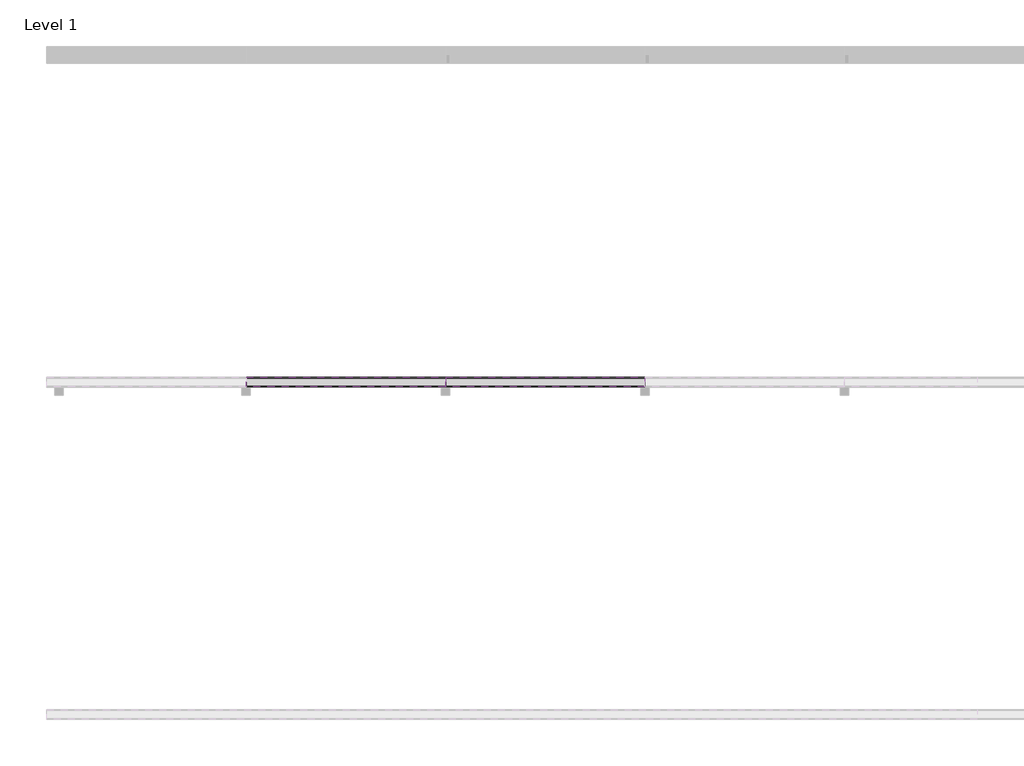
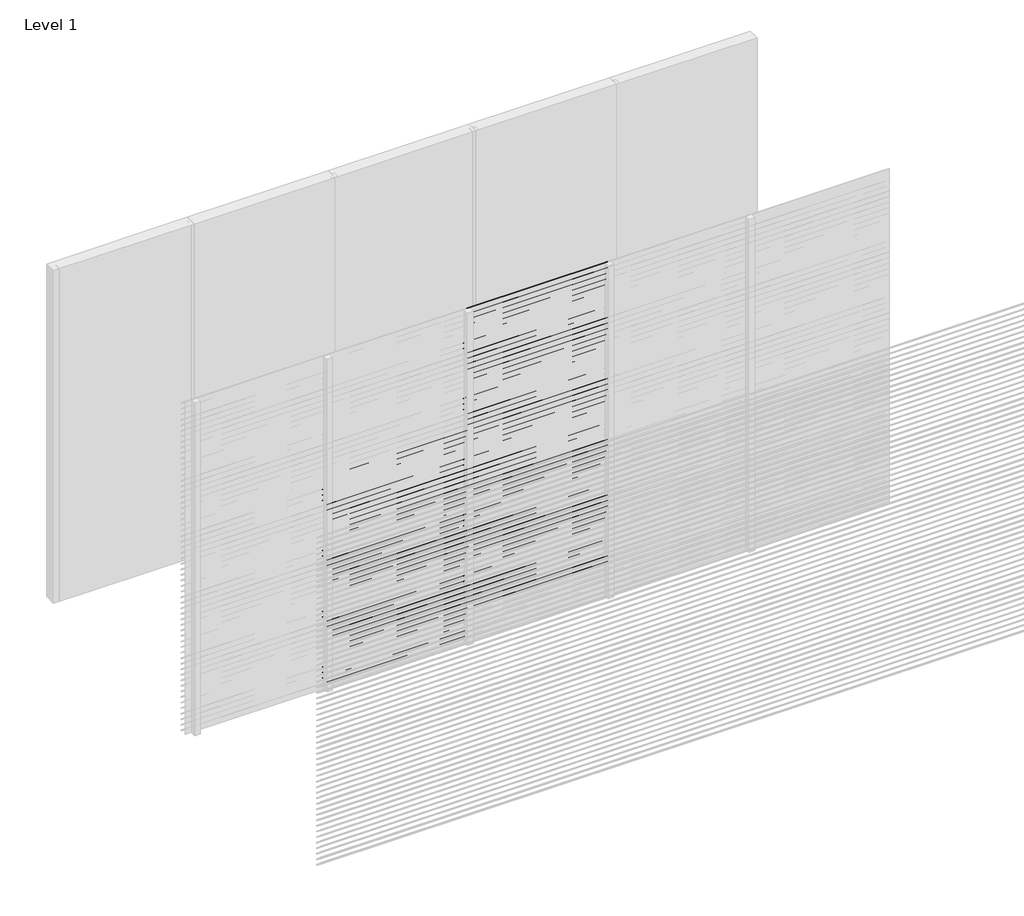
# One storey, part 11 of 16: 93 proxies.
"""IFC4 building model written with IfcOpenShell, lengths in millimetres."""

from ifc_helpers import new_model, si_unit, frame, origin, place, context, project, spatial, polyline, outline, extrude, element, save

model = new_model("IFC4")

# Units and contexts
model_context = context("Model", 3, world=origin())
ifc_project = project(units=[si_unit("LENGTHUNIT", "METRE", prefix="MILLI")], contexts=[model_context])

# Site, building, storey
site = spatial("IfcSite", under=ifc_project)
building = spatial("IfcBuilding", under=site)
storey = spatial("IfcBuildingStorey", under=building, Name="Level 1", Elevation=0.0)

# Proxies
placement = place(None, origin())
element("IfcBuildingElementProxy", 1, Name="Wall Sweeps", at=placement, inside=storey, context=model_context, shape_type="SweptSolid", body=[
    extrude(outline(polyline([(-5995.0, 1900.0), (-5995.0, 1898.0), (-5939.0, 1854.0), (-5939.0, 1846.0), (-5997.0, 1891.5714286), (-5997.0, 1900.0), (-5995.0, 1900.0)])), frame((1200.0, 0.0, 0.0), z_axis=(1.0, 0.0, 0.0), x_axis=(0.0, 1.0, 0.0)), (0.0, 0.0, 1.0), 1200.0),
])
element("IfcBuildingElementProxy", 2, Name="Wall Sweeps", at=placement, inside=storey, context=model_context, shape_type="SweptSolid", body=[
    extrude(outline(polyline([(-5995.0, 1850.0), (-5995.0, 1848.0), (-5939.0, 1804.0), (-5939.0, 1796.0), (-5997.0, 1841.5714286), (-5997.0, 1850.0), (-5995.0, 1850.0)])), frame((1200.0, 0.0, 0.0), z_axis=(1.0, 0.0, 0.0), x_axis=(0.0, 1.0, 0.0)), (0.0, 0.0, 1.0), 1200.0),
])
element("IfcBuildingElementProxy", 3, Name="Wall Sweeps", at=placement, inside=storey, context=model_context, shape_type="SweptSolid", body=[
    extrude(outline(polyline([(-5995.0, 1800.0), (-5995.0, 1798.0), (-5939.0, 1754.0), (-5939.0, 1746.0), (-5997.0, 1791.5714286), (-5997.0, 1800.0), (-5995.0, 1800.0)])), frame((1200.0, 0.0, 0.0), z_axis=(1.0, 0.0, 0.0), x_axis=(0.0, 1.0, 0.0)), (0.0, 0.0, 1.0), 1200.0),
])
element("IfcBuildingElementProxy", 4, Name="Wall Sweeps", at=placement, inside=storey, context=model_context, shape_type="SweptSolid", body=[
    extrude(outline(polyline([(-5995.0, 1750.0), (-5995.0, 1748.0), (-5939.0, 1704.0), (-5939.0, 1696.0), (-5997.0, 1741.5714286), (-5997.0, 1750.0), (-5995.0, 1750.0)])), frame((1200.0, 0.0, 0.0), z_axis=(1.0, 0.0, 0.0), x_axis=(0.0, 1.0, 0.0)), (0.0, 0.0, 1.0), 1200.0),
])
element("IfcBuildingElementProxy", 5, Name="Wall Sweeps", at=placement, inside=storey, context=model_context, shape_type="SweptSolid", body=[
    extrude(outline(polyline([(-5995.0, 1700.0), (-5995.0, 1698.0), (-5939.0, 1654.0), (-5939.0, 1646.0), (-5997.0, 1691.5714286), (-5997.0, 1700.0), (-5995.0, 1700.0)])), frame((1200.0, 0.0, 0.0), z_axis=(1.0, 0.0, 0.0), x_axis=(0.0, 1.0, 0.0)), (0.0, 0.0, 1.0), 1200.0),
])
element("IfcBuildingElementProxy", 6, Name="Wall Sweeps", at=placement, inside=storey, context=model_context, shape_type="SweptSolid", body=[
    extrude(outline(polyline([(-5995.0, 1650.0), (-5995.0, 1648.0), (-5939.0, 1604.0), (-5939.0, 1596.0), (-5997.0, 1641.5714286), (-5997.0, 1650.0), (-5995.0, 1650.0)])), frame((1200.0, 0.0, 0.0), z_axis=(1.0, 0.0, 0.0), x_axis=(0.0, 1.0, 0.0)), (0.0, 0.0, 1.0), 1200.0),
])
element("IfcBuildingElementProxy", 7, Name="Wall Sweeps", at=placement, inside=storey, context=model_context, shape_type="SweptSolid", body=[
    extrude(outline(polyline([(-5995.0, 1600.0), (-5995.0, 1598.0), (-5939.0, 1554.0), (-5939.0, 1546.0), (-5997.0, 1591.5714286), (-5997.0, 1600.0), (-5995.0, 1600.0)])), frame((1200.0, 0.0, 0.0), z_axis=(1.0, 0.0, 0.0), x_axis=(0.0, 1.0, 0.0)), (0.0, 0.0, 1.0), 1200.0),
])
element("IfcBuildingElementProxy", 8, Name="Wall Sweeps", at=placement, inside=storey, context=model_context, shape_type="SweptSolid", body=[
    extrude(outline(polyline([(-5995.0, 1550.0), (-5995.0, 1548.0), (-5939.0, 1504.0), (-5939.0, 1496.0), (-5997.0, 1541.5714286), (-5997.0, 1550.0), (-5995.0, 1550.0)])), frame((1200.0, 0.0, 0.0), z_axis=(1.0, 0.0, 0.0), x_axis=(0.0, 1.0, 0.0)), (0.0, 0.0, 1.0), 1200.0),
])
element("IfcBuildingElementProxy", 9, Name="Wall Sweeps", at=placement, inside=storey, context=model_context, shape_type="SweptSolid", body=[
    extrude(outline(polyline([(-5995.0, 1500.0), (-5995.0, 1498.0), (-5939.0, 1454.0), (-5939.0, 1446.0), (-5997.0, 1491.5714286), (-5997.0, 1500.0), (-5995.0, 1500.0)])), frame((1200.0, 0.0, 0.0), z_axis=(1.0, 0.0, 0.0), x_axis=(0.0, 1.0, 0.0)), (0.0, 0.0, 1.0), 1200.0),
])
element("IfcBuildingElementProxy", 10, Name="Wall Sweeps", at=placement, inside=storey, context=model_context, shape_type="SweptSolid", body=[
    extrude(outline(polyline([(-5995.0, 1450.0), (-5995.0, 1448.0), (-5939.0, 1404.0), (-5939.0, 1396.0), (-5997.0, 1441.5714286), (-5997.0, 1450.0), (-5995.0, 1450.0)])), frame((1200.0, 0.0, 0.0), z_axis=(1.0, 0.0, 0.0), x_axis=(0.0, 1.0, 0.0)), (0.0, 0.0, 1.0), 1200.0),
])
element("IfcBuildingElementProxy", 11, Name="Wall Sweeps", at=placement, inside=storey, context=model_context, shape_type="SweptSolid", body=[
    extrude(outline(polyline([(-5995.0, 1400.0), (-5995.0, 1398.0), (-5939.0, 1354.0), (-5939.0, 1346.0), (-5997.0, 1391.5714286), (-5997.0, 1400.0), (-5995.0, 1400.0)])), frame((1200.0, 0.0, 0.0), z_axis=(1.0, 0.0, 0.0), x_axis=(0.0, 1.0, 0.0)), (0.0, 0.0, 1.0), 1200.0),
])
element("IfcBuildingElementProxy", 12, Name="Wall Sweeps", at=placement, inside=storey, context=model_context, shape_type="SweptSolid", body=[
    extrude(outline(polyline([(-5995.0, 1350.0), (-5995.0, 1348.0), (-5939.0, 1304.0), (-5939.0, 1296.0), (-5997.0, 1341.5714286), (-5997.0, 1350.0), (-5995.0, 1350.0)])), frame((1200.0, 0.0, 0.0), z_axis=(1.0, 0.0, 0.0), x_axis=(0.0, 1.0, 0.0)), (0.0, 0.0, 1.0), 1200.0),
])
element("IfcBuildingElementProxy", 13, Name="Wall Sweeps", at=placement, inside=storey, context=model_context, shape_type="SweptSolid", body=[
    extrude(outline(polyline([(-5995.0, 1300.0), (-5995.0, 1298.0), (-5939.0, 1254.0), (-5939.0, 1246.0), (-5997.0, 1291.5714286), (-5997.0, 1300.0), (-5995.0, 1300.0)])), frame((1200.0, 0.0, 0.0), z_axis=(1.0, 0.0, 0.0), x_axis=(0.0, 1.0, 0.0)), (0.0, 0.0, 1.0), 1200.0),
])
element("IfcBuildingElementProxy", 14, Name="Wall Sweeps", at=placement, inside=storey, context=model_context, shape_type="SweptSolid", body=[
    extrude(outline(polyline([(-5995.0, 1250.0), (-5995.0, 1248.0), (-5939.0, 1204.0), (-5939.0, 1196.0), (-5997.0, 1241.5714286), (-5997.0, 1250.0), (-5995.0, 1250.0)])), frame((1200.0, 0.0, 0.0), z_axis=(1.0, 0.0, 0.0), x_axis=(0.0, 1.0, 0.0)), (0.0, 0.0, 1.0), 1200.0),
])
element("IfcBuildingElementProxy", 15, Name="Wall Sweeps", at=placement, inside=storey, context=model_context, shape_type="SweptSolid", body=[
    extrude(outline(polyline([(-5995.0, 1200.0), (-5995.0, 1198.0), (-5939.0, 1154.0), (-5939.0, 1146.0), (-5997.0, 1191.5714286), (-5997.0, 1200.0), (-5995.0, 1200.0)])), frame((1200.0, 0.0, 0.0), z_axis=(1.0, 0.0, 0.0), x_axis=(0.0, 1.0, 0.0)), (0.0, 0.0, 1.0), 1200.0),
])
element("IfcBuildingElementProxy", 16, Name="Wall Sweeps", at=placement, inside=storey, context=model_context, shape_type="SweptSolid", body=[
    extrude(outline(polyline([(-5995.0, 1150.0), (-5995.0, 1148.0), (-5939.0, 1104.0), (-5939.0, 1096.0), (-5997.0, 1141.5714286), (-5997.0, 1150.0), (-5995.0, 1150.0)])), frame((1200.0, 0.0, 0.0), z_axis=(1.0, 0.0, 0.0), x_axis=(0.0, 1.0, 0.0)), (0.0, 0.0, 1.0), 1200.0),
])
element("IfcBuildingElementProxy", 17, Name="Wall Sweeps", at=placement, inside=storey, context=model_context, shape_type="SweptSolid", body=[
    extrude(outline(polyline([(-5995.0, 1100.0), (-5995.0, 1098.0), (-5939.0, 1054.0), (-5939.0, 1046.0), (-5997.0, 1091.5714286), (-5997.0, 1100.0), (-5995.0, 1100.0)])), frame((1200.0, 0.0, 0.0), z_axis=(1.0, 0.0, 0.0), x_axis=(0.0, 1.0, 0.0)), (0.0, 0.0, 1.0), 1200.0),
])
element("IfcBuildingElementProxy", 18, Name="Wall Sweeps", at=placement, inside=storey, context=model_context, shape_type="SweptSolid", body=[
    extrude(outline(polyline([(-5995.0, 1050.0), (-5995.0, 1048.0), (-5939.0, 1004.0), (-5939.0, 996.0), (-5997.0, 1041.5714286), (-5997.0, 1050.0), (-5995.0, 1050.0)])), frame((1200.0, 0.0, 0.0), z_axis=(1.0, 0.0, 0.0), x_axis=(0.0, 1.0, 0.0)), (0.0, 0.0, 1.0), 1200.0),
])
element("IfcBuildingElementProxy", 19, Name="Wall Sweeps", at=placement, inside=storey, context=model_context, shape_type="SweptSolid", body=[
    extrude(outline(polyline([(-5995.0, 1000.0), (-5995.0, 998.0), (-5939.0, 954.0), (-5939.0, 946.0), (-5997.0, 991.5714286), (-5997.0, 1000.0), (-5995.0, 1000.0)])), frame((1200.0, 0.0, 0.0), z_axis=(1.0, 0.0, 0.0), x_axis=(0.0, 1.0, 0.0)), (0.0, 0.0, 1.0), 1200.0),
])
element("IfcBuildingElementProxy", 20, Name="Wall Sweeps", at=placement, inside=storey, context=model_context, shape_type="SweptSolid", body=[
    extrude(outline(polyline([(-5995.0, 950.0), (-5995.0, 948.0), (-5939.0, 904.0), (-5939.0, 896.0), (-5997.0, 941.5714286), (-5997.0, 950.0), (-5995.0, 950.0)])), frame((1200.0, 0.0, 0.0), z_axis=(1.0, 0.0, 0.0), x_axis=(0.0, 1.0, 0.0)), (0.0, 0.0, 1.0), 1200.0),
])
element("IfcBuildingElementProxy", 21, Name="Wall Sweeps", at=placement, inside=storey, context=model_context, shape_type="SweptSolid", body=[
    extrude(outline(polyline([(-5995.0, 900.0), (-5995.0, 898.0), (-5939.0, 854.0), (-5939.0, 846.0), (-5997.0, 891.5714286), (-5997.0, 900.0), (-5995.0, 900.0)])), frame((1200.0, 0.0, 0.0), z_axis=(1.0, 0.0, 0.0), x_axis=(0.0, 1.0, 0.0)), (0.0, 0.0, 1.0), 1200.0),
])
element("IfcBuildingElementProxy", 22, Name="Wall Sweeps", at=placement, inside=storey, context=model_context, shape_type="SweptSolid", body=[
    extrude(outline(polyline([(-5995.0, 850.0), (-5995.0, 848.0), (-5939.0, 804.0), (-5939.0, 796.0), (-5997.0, 841.5714286), (-5997.0, 850.0), (-5995.0, 850.0)])), frame((1200.0, 0.0, 0.0), z_axis=(1.0, 0.0, 0.0), x_axis=(0.0, 1.0, 0.0)), (0.0, 0.0, 1.0), 1200.0),
])
element("IfcBuildingElementProxy", 23, Name="Wall Sweeps", at=placement, inside=storey, context=model_context, shape_type="SweptSolid", body=[
    extrude(outline(polyline([(-5995.0, 800.0), (-5995.0, 798.0), (-5939.0, 754.0), (-5939.0, 746.0), (-5997.0, 791.5714286), (-5997.0, 800.0), (-5995.0, 800.0)])), frame((1200.0, 0.0, 0.0), z_axis=(1.0, 0.0, 0.0), x_axis=(0.0, 1.0, 0.0)), (0.0, 0.0, 1.0), 1200.0),
])
element("IfcBuildingElementProxy", 24, Name="Wall Sweeps", at=placement, inside=storey, context=model_context, shape_type="SweptSolid", body=[
    extrude(outline(polyline([(-5995.0, 750.0), (-5995.0, 748.0), (-5939.0, 704.0), (-5939.0, 696.0), (-5997.0, 741.5714286), (-5997.0, 750.0), (-5995.0, 750.0)])), frame((1200.0, 0.0, 0.0), z_axis=(1.0, 0.0, 0.0), x_axis=(0.0, 1.0, 0.0)), (0.0, 0.0, 1.0), 1200.0),
])
element("IfcBuildingElementProxy", 25, Name="Wall Sweeps", at=placement, inside=storey, context=model_context, shape_type="SweptSolid", body=[
    extrude(outline(polyline([(-5995.0, 700.0), (-5995.0, 698.0), (-5939.0, 654.0), (-5939.0, 646.0), (-5997.0, 691.5714286), (-5997.0, 700.0), (-5995.0, 700.0)])), frame((1200.0, 0.0, 0.0), z_axis=(1.0, 0.0, 0.0), x_axis=(0.0, 1.0, 0.0)), (0.0, 0.0, 1.0), 1200.0),
])
element("IfcBuildingElementProxy", 26, Name="Wall Sweeps", at=placement, inside=storey, context=model_context, shape_type="SweptSolid", body=[
    extrude(outline(polyline([(-5995.0, 650.0), (-5995.0, 648.0), (-5939.0, 604.0), (-5939.0, 596.0), (-5997.0, 641.5714286), (-5997.0, 650.0), (-5995.0, 650.0)])), frame((1200.0, 0.0, 0.0), z_axis=(1.0, 0.0, 0.0), x_axis=(0.0, 1.0, 0.0)), (0.0, 0.0, 1.0), 1200.0),
])
element("IfcBuildingElementProxy", 27, Name="Wall Sweeps", at=placement, inside=storey, context=model_context, shape_type="SweptSolid", body=[
    extrude(outline(polyline([(-5995.0, 600.0), (-5995.0, 598.0), (-5939.0, 554.0), (-5939.0, 546.0), (-5997.0, 591.5714286), (-5997.0, 600.0), (-5995.0, 600.0)])), frame((1200.0, 0.0, 0.0), z_axis=(1.0, 0.0, 0.0), x_axis=(0.0, 1.0, 0.0)), (0.0, 0.0, 1.0), 1200.0),
])
element("IfcBuildingElementProxy", 28, Name="Wall Sweeps", at=placement, inside=storey, context=model_context, shape_type="SweptSolid", body=[
    extrude(outline(polyline([(-5995.0, 550.0), (-5995.0, 548.0), (-5939.0, 504.0), (-5939.0, 496.0), (-5997.0, 541.5714286), (-5997.0, 550.0), (-5995.0, 550.0)])), frame((1200.0, 0.0, 0.0), z_axis=(1.0, 0.0, 0.0), x_axis=(0.0, 1.0, 0.0)), (0.0, 0.0, 1.0), 1200.0),
])
element("IfcBuildingElementProxy", 29, Name="Wall Sweeps", at=placement, inside=storey, context=model_context, shape_type="SweptSolid", body=[
    extrude(outline(polyline([(-5995.0, 500.0), (-5995.0, 498.0), (-5939.0, 454.0), (-5939.0, 446.0), (-5997.0, 491.5714286), (-5997.0, 500.0), (-5995.0, 500.0)])), frame((1200.0, 0.0, 0.0), z_axis=(1.0, 0.0, 0.0), x_axis=(0.0, 1.0, 0.0)), (0.0, 0.0, 1.0), 1200.0),
])
element("IfcBuildingElementProxy", 30, Name="Wall Sweeps", at=placement, inside=storey, context=model_context, shape_type="SweptSolid", body=[
    extrude(outline(polyline([(-5995.0, 450.0), (-5995.0, 448.0), (-5939.0, 404.0), (-5939.0, 396.0), (-5997.0, 441.5714286), (-5997.0, 450.0), (-5995.0, 450.0)])), frame((1200.0, 0.0, 0.0), z_axis=(1.0, 0.0, 0.0), x_axis=(0.0, 1.0, 0.0)), (0.0, 0.0, 1.0), 1200.0),
])
element("IfcBuildingElementProxy", 31, Name="Wall Sweeps", at=placement, inside=storey, context=model_context, shape_type="SweptSolid", body=[
    extrude(outline(polyline([(-5995.0, 400.0), (-5995.0, 398.0), (-5939.0, 354.0), (-5939.0, 346.0), (-5997.0, 391.5714286), (-5997.0, 400.0), (-5995.0, 400.0)])), frame((1200.0, 0.0, 0.0), z_axis=(1.0, 0.0, 0.0), x_axis=(0.0, 1.0, 0.0)), (0.0, 0.0, 1.0), 1200.0),
])
element("IfcBuildingElementProxy", 32, Name="Wall Sweeps", at=placement, inside=storey, context=model_context, shape_type="SweptSolid", body=[
    extrude(outline(polyline([(-5995.0, 350.0), (-5995.0, 348.0), (-5939.0, 304.0), (-5939.0, 296.0), (-5997.0, 341.5714286), (-5997.0, 350.0), (-5995.0, 350.0)])), frame((1200.0, 0.0, 0.0), z_axis=(1.0, 0.0, 0.0), x_axis=(0.0, 1.0, 0.0)), (0.0, 0.0, 1.0), 1200.0),
])
element("IfcBuildingElementProxy", 33, Name="Wall Sweeps", at=placement, inside=storey, context=model_context, shape_type="SweptSolid", body=[
    extrude(outline(polyline([(-5995.0, 300.0), (-5995.0, 298.0), (-5939.0, 254.0), (-5939.0, 246.0), (-5997.0, 291.5714286), (-5997.0, 300.0), (-5995.0, 300.0)])), frame((1200.0, 0.0, 0.0), z_axis=(1.0, 0.0, 0.0), x_axis=(0.0, 1.0, 0.0)), (0.0, 0.0, 1.0), 1200.0),
])
element("IfcBuildingElementProxy", 34, Name="Wall Sweeps", at=placement, inside=storey, context=model_context, shape_type="SweptSolid", body=[
    extrude(outline(polyline([(-5995.0, 250.0), (-5995.0, 248.0), (-5939.0, 204.0), (-5939.0, 196.0), (-5997.0, 241.5714286), (-5997.0, 250.0), (-5995.0, 250.0)])), frame((1200.0, 0.0, 0.0), z_axis=(1.0, 0.0, 0.0), x_axis=(0.0, 1.0, 0.0)), (0.0, 0.0, 1.0), 1200.0),
])
element("IfcBuildingElementProxy", 35, Name="Wall Sweeps", at=placement, inside=storey, context=model_context, shape_type="SweptSolid", body=[
    extrude(outline(polyline([(-5995.0, 200.0), (-5995.0, 198.0), (-5939.0, 154.0), (-5939.0, 146.0), (-5997.0, 191.5714286), (-5997.0, 200.0), (-5995.0, 200.0)])), frame((1200.0, 0.0, 0.0), z_axis=(1.0, 0.0, 0.0), x_axis=(0.0, 1.0, 0.0)), (0.0, 0.0, 1.0), 1200.0),
])
element("IfcBuildingElementProxy", 36, Name="Wall Sweeps", at=placement, inside=storey, context=model_context, shape_type="SweptSolid", body=[
    extrude(outline(polyline([(-5995.0, 150.0), (-5995.0, 148.0), (-5939.0, 104.0), (-5939.0, 96.0), (-5997.0, 141.5714286), (-5997.0, 150.0), (-5995.0, 150.0)])), frame((1200.0, 0.0, 0.0), z_axis=(1.0, 0.0, 0.0), x_axis=(0.0, 1.0, 0.0)), (0.0, 0.0, 1.0), 1200.0),
])
element("IfcBuildingElementProxy", 37, Name="Wall Sweeps", at=placement, inside=storey, context=model_context, shape_type="SweptSolid", body=[
    extrude(outline(polyline([(-5995.0, 100.0), (-5995.0, 98.0), (-5939.0, 54.0), (-5939.0, 46.0), (-5997.0, 91.5714286), (-5997.0, 100.0), (-5995.0, 100.0)])), frame((1200.0, 0.0, 0.0), z_axis=(1.0, 0.0, 0.0), x_axis=(0.0, 1.0, 0.0)), (0.0, 0.0, 1.0), 1200.0),
])
element("IfcBuildingElementProxy", 38, Name="Wall Sweeps", at=placement, inside=storey, context=model_context, shape_type="SweptSolid", body=[
    extrude(outline(polyline([(-5995.0, 50.0), (-5995.0, 48.0), (-5939.0, 4.0), (-5939.0, -4.0), (-5997.0, 41.5714286), (-5997.0, 50.0), (-5995.0, 50.0)])), frame((1200.0, 0.0, 0.0), z_axis=(1.0, 0.0, 0.0), x_axis=(0.0, 1.0, 0.0)), (0.0, 0.0, 1.0), 1200.0),
])
element("IfcBuildingElementProxy", 39, Name="Wall Sweeps", at=placement, inside=storey, context=model_context, shape_type="SweptSolid", body=[
    extrude(outline(polyline([(-5995.0, 3000.0), (-5995.0, 2998.0), (-5939.0, 2954.0), (-5939.0, 2946.0), (-5997.0, 2991.5714286), (-5997.0, 3000.0), (-5995.0, 3000.0)])), frame((2400.0, 0.0, 0.0), z_axis=(1.0, 0.0, 0.0), x_axis=(0.0, 1.0, 0.0)), (0.0, 0.0, 1.0), 1200.0),
])
element("IfcBuildingElementProxy", 40, Name="Wall Sweeps", at=placement, inside=storey, context=model_context, shape_type="SweptSolid", body=[
    extrude(outline(polyline([(-5995.0, 2950.0), (-5995.0, 2948.0), (-5939.0, 2904.0), (-5939.0, 2896.0), (-5997.0, 2941.5714286), (-5997.0, 2950.0), (-5995.0, 2950.0)])), frame((2400.0, 0.0, 0.0), z_axis=(1.0, 0.0, 0.0), x_axis=(0.0, 1.0, 0.0)), (0.0, 0.0, 1.0), 1200.0),
])
element("IfcBuildingElementProxy", 41, Name="Wall Sweeps", at=placement, inside=storey, context=model_context, shape_type="SweptSolid", body=[
    extrude(outline(polyline([(-5995.0, 2900.0), (-5995.0, 2898.0), (-5939.0, 2854.0), (-5939.0, 2846.0), (-5997.0, 2891.5714286), (-5997.0, 2900.0), (-5995.0, 2900.0)])), frame((2400.0, 0.0, 0.0), z_axis=(1.0, 0.0, 0.0), x_axis=(0.0, 1.0, 0.0)), (0.0, 0.0, 1.0), 1200.0),
])
element("IfcBuildingElementProxy", 42, Name="Wall Sweeps", at=placement, inside=storey, context=model_context, shape_type="SweptSolid", body=[
    extrude(outline(polyline([(-5995.0, 2850.0), (-5995.0, 2848.0), (-5939.0, 2804.0), (-5939.0, 2796.0), (-5997.0, 2841.5714286), (-5997.0, 2850.0), (-5995.0, 2850.0)])), frame((2400.0, 0.0, 0.0), z_axis=(1.0, 0.0, 0.0), x_axis=(0.0, 1.0, 0.0)), (0.0, 0.0, 1.0), 1200.0),
])
element("IfcBuildingElementProxy", 43, Name="Wall Sweeps", at=placement, inside=storey, context=model_context, shape_type="SweptSolid", body=[
    extrude(outline(polyline([(-5995.0, 2800.0), (-5995.0, 2798.0), (-5939.0, 2754.0), (-5939.0, 2746.0), (-5997.0, 2791.5714286), (-5997.0, 2800.0), (-5995.0, 2800.0)])), frame((2400.0, 0.0, 0.0), z_axis=(1.0, 0.0, 0.0), x_axis=(0.0, 1.0, 0.0)), (0.0, 0.0, 1.0), 1200.0),
])
element("IfcBuildingElementProxy", 44, Name="Wall Sweeps", at=placement, inside=storey, context=model_context, shape_type="SweptSolid", body=[
    extrude(outline(polyline([(-5995.0, 2750.0), (-5995.0, 2748.0), (-5939.0, 2704.0), (-5939.0, 2696.0), (-5997.0, 2741.5714286), (-5997.0, 2750.0), (-5995.0, 2750.0)])), frame((2400.0, 0.0, 0.0), z_axis=(1.0, 0.0, 0.0), x_axis=(0.0, 1.0, 0.0)), (0.0, 0.0, 1.0), 1200.0),
])
element("IfcBuildingElementProxy", 45, Name="Wall Sweeps", at=placement, inside=storey, context=model_context, shape_type="SweptSolid", body=[
    extrude(outline(polyline([(-5995.0, 2700.0), (-5995.0, 2698.0), (-5939.0, 2654.0), (-5939.0, 2646.0), (-5997.0, 2691.5714286), (-5997.0, 2700.0), (-5995.0, 2700.0)])), frame((2400.0, 0.0, 0.0), z_axis=(1.0, 0.0, 0.0), x_axis=(0.0, 1.0, 0.0)), (0.0, 0.0, 1.0), 1200.0),
])
element("IfcBuildingElementProxy", 46, Name="Wall Sweeps", at=placement, inside=storey, context=model_context, shape_type="SweptSolid", body=[
    extrude(outline(polyline([(-5995.0, 2650.0), (-5995.0, 2648.0), (-5939.0, 2604.0), (-5939.0, 2596.0), (-5997.0, 2641.5714286), (-5997.0, 2650.0), (-5995.0, 2650.0)])), frame((2400.0, 0.0, 0.0), z_axis=(1.0, 0.0, 0.0), x_axis=(0.0, 1.0, 0.0)), (0.0, 0.0, 1.0), 1200.0),
])
element("IfcBuildingElementProxy", 47, Name="Wall Sweeps", at=placement, inside=storey, context=model_context, shape_type="SweptSolid", body=[
    extrude(outline(polyline([(-5995.0, 2600.0), (-5995.0, 2598.0), (-5939.0, 2554.0), (-5939.0, 2546.0), (-5997.0, 2591.5714286), (-5997.0, 2600.0), (-5995.0, 2600.0)])), frame((2400.0, 0.0, 0.0), z_axis=(1.0, 0.0, 0.0), x_axis=(0.0, 1.0, 0.0)), (0.0, 0.0, 1.0), 1200.0),
])
element("IfcBuildingElementProxy", 48, Name="Wall Sweeps", at=placement, inside=storey, context=model_context, shape_type="SweptSolid", body=[
    extrude(outline(polyline([(-5995.0, 2550.0), (-5995.0, 2548.0), (-5939.0, 2504.0), (-5939.0, 2496.0), (-5997.0, 2541.5714286), (-5997.0, 2550.0), (-5995.0, 2550.0)])), frame((2400.0, 0.0, 0.0), z_axis=(1.0, 0.0, 0.0), x_axis=(0.0, 1.0, 0.0)), (0.0, 0.0, 1.0), 1200.0),
])
element("IfcBuildingElementProxy", 49, Name="Wall Sweeps", at=placement, inside=storey, context=model_context, shape_type="SweptSolid", body=[
    extrude(outline(polyline([(-5995.0, 2500.0), (-5995.0, 2498.0), (-5939.0, 2454.0), (-5939.0, 2446.0), (-5997.0, 2491.5714286), (-5997.0, 2500.0), (-5995.0, 2500.0)])), frame((2400.0, 0.0, 0.0), z_axis=(1.0, 0.0, 0.0), x_axis=(0.0, 1.0, 0.0)), (0.0, 0.0, 1.0), 1200.0),
])
element("IfcBuildingElementProxy", 50, Name="Wall Sweeps", at=placement, inside=storey, context=model_context, shape_type="SweptSolid", body=[
    extrude(outline(polyline([(-5995.0, 2450.0), (-5995.0, 2448.0), (-5939.0, 2404.0), (-5939.0, 2396.0), (-5997.0, 2441.5714286), (-5997.0, 2450.0), (-5995.0, 2450.0)])), frame((2400.0, 0.0, 0.0), z_axis=(1.0, 0.0, 0.0), x_axis=(0.0, 1.0, 0.0)), (0.0, 0.0, 1.0), 1200.0),
])
element("IfcBuildingElementProxy", 51, Name="Wall Sweeps", at=placement, inside=storey, context=model_context, shape_type="SweptSolid", body=[
    extrude(outline(polyline([(-5995.0, 2400.0), (-5995.0, 2398.0), (-5939.0, 2354.0), (-5939.0, 2346.0), (-5997.0, 2391.5714286), (-5997.0, 2400.0), (-5995.0, 2400.0)])), frame((2400.0, 0.0, 0.0), z_axis=(1.0, 0.0, 0.0), x_axis=(0.0, 1.0, 0.0)), (0.0, 0.0, 1.0), 1200.0),
])
element("IfcBuildingElementProxy", 52, Name="Wall Sweeps", at=placement, inside=storey, context=model_context, shape_type="SweptSolid", body=[
    extrude(outline(polyline([(-5995.0, 2350.0), (-5995.0, 2348.0), (-5939.0, 2304.0), (-5939.0, 2296.0), (-5997.0, 2341.5714286), (-5997.0, 2350.0), (-5995.0, 2350.0)])), frame((2400.0, 0.0, 0.0), z_axis=(1.0, 0.0, 0.0), x_axis=(0.0, 1.0, 0.0)), (0.0, 0.0, 1.0), 1200.0),
])
element("IfcBuildingElementProxy", 53, Name="Wall Sweeps", at=placement, inside=storey, context=model_context, shape_type="SweptSolid", body=[
    extrude(outline(polyline([(-5995.0, 2300.0), (-5995.0, 2298.0), (-5939.0, 2254.0), (-5939.0, 2246.0), (-5997.0, 2291.5714286), (-5997.0, 2300.0), (-5995.0, 2300.0)])), frame((2400.0, 0.0, 0.0), z_axis=(1.0, 0.0, 0.0), x_axis=(0.0, 1.0, 0.0)), (0.0, 0.0, 1.0), 1200.0),
])
element("IfcBuildingElementProxy", 54, Name="Wall Sweeps", at=placement, inside=storey, context=model_context, shape_type="SweptSolid", body=[
    extrude(outline(polyline([(-5995.0, 2250.0), (-5995.0, 2248.0), (-5939.0, 2204.0), (-5939.0, 2196.0), (-5997.0, 2241.5714286), (-5997.0, 2250.0), (-5995.0, 2250.0)])), frame((2400.0, 0.0, 0.0), z_axis=(1.0, 0.0, 0.0), x_axis=(0.0, 1.0, 0.0)), (0.0, 0.0, 1.0), 1200.0),
])
element("IfcBuildingElementProxy", 55, Name="Wall Sweeps", at=placement, inside=storey, context=model_context, shape_type="SweptSolid", body=[
    extrude(outline(polyline([(-5995.0, 2200.0), (-5995.0, 2198.0), (-5939.0, 2154.0), (-5939.0, 2146.0), (-5997.0, 2191.5714286), (-5997.0, 2200.0), (-5995.0, 2200.0)])), frame((2400.0, 0.0, 0.0), z_axis=(1.0, 0.0, 0.0), x_axis=(0.0, 1.0, 0.0)), (0.0, 0.0, 1.0), 1200.0),
])
element("IfcBuildingElementProxy", 56, Name="Wall Sweeps", at=placement, inside=storey, context=model_context, shape_type="SweptSolid", body=[
    extrude(outline(polyline([(-5995.0, 2150.0), (-5995.0, 2148.0), (-5939.0, 2104.0), (-5939.0, 2096.0), (-5997.0, 2141.5714286), (-5997.0, 2150.0), (-5995.0, 2150.0)])), frame((2400.0, 0.0, 0.0), z_axis=(1.0, 0.0, 0.0), x_axis=(0.0, 1.0, 0.0)), (0.0, 0.0, 1.0), 1200.0),
])
element("IfcBuildingElementProxy", 57, Name="Wall Sweeps", at=placement, inside=storey, context=model_context, shape_type="SweptSolid", body=[
    extrude(outline(polyline([(-5995.0, 2100.0), (-5995.0, 2098.0), (-5939.0, 2054.0), (-5939.0, 2046.0), (-5997.0, 2091.5714286), (-5997.0, 2100.0), (-5995.0, 2100.0)])), frame((2400.0, 0.0, 0.0), z_axis=(1.0, 0.0, 0.0), x_axis=(0.0, 1.0, 0.0)), (0.0, 0.0, 1.0), 1200.0),
])
element("IfcBuildingElementProxy", 58, Name="Wall Sweeps", at=placement, inside=storey, context=model_context, shape_type="SweptSolid", body=[
    extrude(outline(polyline([(-5995.0, 2050.0), (-5995.0, 2048.0), (-5939.0, 2004.0), (-5939.0, 1996.0), (-5997.0, 2041.5714286), (-5997.0, 2050.0), (-5995.0, 2050.0)])), frame((2400.0, 0.0, 0.0), z_axis=(1.0, 0.0, 0.0), x_axis=(0.0, 1.0, 0.0)), (0.0, 0.0, 1.0), 1200.0),
])
element("IfcBuildingElementProxy", 59, Name="Wall Sweeps", at=placement, inside=storey, context=model_context, shape_type="SweptSolid", body=[
    extrude(outline(polyline([(-5995.0, 2000.0), (-5995.0, 1998.0), (-5939.0, 1954.0), (-5939.0, 1946.0), (-5997.0, 1991.5714286), (-5997.0, 2000.0), (-5995.0, 2000.0)])), frame((2400.0, 0.0, 0.0), z_axis=(1.0, 0.0, 0.0), x_axis=(0.0, 1.0, 0.0)), (0.0, 0.0, 1.0), 1200.0),
])
element("IfcBuildingElementProxy", 60, Name="Wall Sweeps", at=placement, inside=storey, context=model_context, shape_type="SweptSolid", body=[
    extrude(outline(polyline([(-5995.0, 1950.0), (-5995.0, 1948.0), (-5939.0, 1904.0), (-5939.0, 1896.0), (-5997.0, 1941.5714286), (-5997.0, 1950.0), (-5995.0, 1950.0)])), frame((2400.0, 0.0, 0.0), z_axis=(1.0, 0.0, 0.0), x_axis=(0.0, 1.0, 0.0)), (0.0, 0.0, 1.0), 1200.0),
])
element("IfcBuildingElementProxy", 61, Name="Wall Sweeps", at=placement, inside=storey, context=model_context, shape_type="SweptSolid", body=[
    extrude(outline(polyline([(-5995.0, 1900.0), (-5995.0, 1898.0), (-5939.0, 1854.0), (-5939.0, 1846.0), (-5997.0, 1891.5714286), (-5997.0, 1900.0), (-5995.0, 1900.0)])), frame((2400.0, 0.0, 0.0), z_axis=(1.0, 0.0, 0.0), x_axis=(0.0, 1.0, 0.0)), (0.0, 0.0, 1.0), 1200.0),
])
element("IfcBuildingElementProxy", 62, Name="Wall Sweeps", at=placement, inside=storey, context=model_context, shape_type="SweptSolid", body=[
    extrude(outline(polyline([(-5995.0, 1850.0), (-5995.0, 1848.0), (-5939.0, 1804.0), (-5939.0, 1796.0), (-5997.0, 1841.5714286), (-5997.0, 1850.0), (-5995.0, 1850.0)])), frame((2400.0, 0.0, 0.0), z_axis=(1.0, 0.0, 0.0), x_axis=(0.0, 1.0, 0.0)), (0.0, 0.0, 1.0), 1200.0),
])
element("IfcBuildingElementProxy", 63, Name="Wall Sweeps", at=placement, inside=storey, context=model_context, shape_type="SweptSolid", body=[
    extrude(outline(polyline([(-5995.0, 1800.0), (-5995.0, 1798.0), (-5939.0, 1754.0), (-5939.0, 1746.0), (-5997.0, 1791.5714286), (-5997.0, 1800.0), (-5995.0, 1800.0)])), frame((2400.0, 0.0, 0.0), z_axis=(1.0, 0.0, 0.0), x_axis=(0.0, 1.0, 0.0)), (0.0, 0.0, 1.0), 1200.0),
])
element("IfcBuildingElementProxy", 64, Name="Wall Sweeps", at=placement, inside=storey, context=model_context, shape_type="SweptSolid", body=[
    extrude(outline(polyline([(-5995.0, 1750.0), (-5995.0, 1748.0), (-5939.0, 1704.0), (-5939.0, 1696.0), (-5997.0, 1741.5714286), (-5997.0, 1750.0), (-5995.0, 1750.0)])), frame((2400.0, 0.0, 0.0), z_axis=(1.0, 0.0, 0.0), x_axis=(0.0, 1.0, 0.0)), (0.0, 0.0, 1.0), 1200.0),
])
element("IfcBuildingElementProxy", 65, Name="Wall Sweeps", at=placement, inside=storey, context=model_context, shape_type="SweptSolid", body=[
    extrude(outline(polyline([(-5995.0, 1700.0), (-5995.0, 1698.0), (-5939.0, 1654.0), (-5939.0, 1646.0), (-5997.0, 1691.5714286), (-5997.0, 1700.0), (-5995.0, 1700.0)])), frame((2400.0, 0.0, 0.0), z_axis=(1.0, 0.0, 0.0), x_axis=(0.0, 1.0, 0.0)), (0.0, 0.0, 1.0), 1200.0),
])
element("IfcBuildingElementProxy", 66, Name="Wall Sweeps", at=placement, inside=storey, context=model_context, shape_type="SweptSolid", body=[
    extrude(outline(polyline([(-5995.0, 1650.0), (-5995.0, 1648.0), (-5939.0, 1604.0), (-5939.0, 1596.0), (-5997.0, 1641.5714286), (-5997.0, 1650.0), (-5995.0, 1650.0)])), frame((2400.0, 0.0, 0.0), z_axis=(1.0, 0.0, 0.0), x_axis=(0.0, 1.0, 0.0)), (0.0, 0.0, 1.0), 1200.0),
])
element("IfcBuildingElementProxy", 67, Name="Wall Sweeps", at=placement, inside=storey, context=model_context, shape_type="SweptSolid", body=[
    extrude(outline(polyline([(-5995.0, 1600.0), (-5995.0, 1598.0), (-5939.0, 1554.0), (-5939.0, 1546.0), (-5997.0, 1591.5714286), (-5997.0, 1600.0), (-5995.0, 1600.0)])), frame((2400.0, 0.0, 0.0), z_axis=(1.0, 0.0, 0.0), x_axis=(0.0, 1.0, 0.0)), (0.0, 0.0, 1.0), 1200.0),
])
element("IfcBuildingElementProxy", 68, Name="Wall Sweeps", at=placement, inside=storey, context=model_context, shape_type="SweptSolid", body=[
    extrude(outline(polyline([(-5995.0, 1550.0), (-5995.0, 1548.0), (-5939.0, 1504.0), (-5939.0, 1496.0), (-5997.0, 1541.5714286), (-5997.0, 1550.0), (-5995.0, 1550.0)])), frame((2400.0, 0.0, 0.0), z_axis=(1.0, 0.0, 0.0), x_axis=(0.0, 1.0, 0.0)), (0.0, 0.0, 1.0), 1200.0),
])
element("IfcBuildingElementProxy", 69, Name="Wall Sweeps", at=placement, inside=storey, context=model_context, shape_type="SweptSolid", body=[
    extrude(outline(polyline([(-5995.0, 1500.0), (-5995.0, 1498.0), (-5939.0, 1454.0), (-5939.0, 1446.0), (-5997.0, 1491.5714286), (-5997.0, 1500.0), (-5995.0, 1500.0)])), frame((2400.0, 0.0, 0.0), z_axis=(1.0, 0.0, 0.0), x_axis=(0.0, 1.0, 0.0)), (0.0, 0.0, 1.0), 1200.0),
])
element("IfcBuildingElementProxy", 70, Name="Wall Sweeps", at=placement, inside=storey, context=model_context, shape_type="SweptSolid", body=[
    extrude(outline(polyline([(-5995.0, 1450.0), (-5995.0, 1448.0), (-5939.0, 1404.0), (-5939.0, 1396.0), (-5997.0, 1441.5714286), (-5997.0, 1450.0), (-5995.0, 1450.0)])), frame((2400.0, 0.0, 0.0), z_axis=(1.0, 0.0, 0.0), x_axis=(0.0, 1.0, 0.0)), (0.0, 0.0, 1.0), 1200.0),
])
element("IfcBuildingElementProxy", 71, Name="Wall Sweeps", at=placement, inside=storey, context=model_context, shape_type="SweptSolid", body=[
    extrude(outline(polyline([(-5995.0, 1400.0), (-5995.0, 1398.0), (-5939.0, 1354.0), (-5939.0, 1346.0), (-5997.0, 1391.5714286), (-5997.0, 1400.0), (-5995.0, 1400.0)])), frame((2400.0, 0.0, 0.0), z_axis=(1.0, 0.0, 0.0), x_axis=(0.0, 1.0, 0.0)), (0.0, 0.0, 1.0), 1200.0),
])
element("IfcBuildingElementProxy", 72, Name="Wall Sweeps", at=placement, inside=storey, context=model_context, shape_type="SweptSolid", body=[
    extrude(outline(polyline([(-5995.0, 1350.0), (-5995.0, 1348.0), (-5939.0, 1304.0), (-5939.0, 1296.0), (-5997.0, 1341.5714286), (-5997.0, 1350.0), (-5995.0, 1350.0)])), frame((2400.0, 0.0, 0.0), z_axis=(1.0, 0.0, 0.0), x_axis=(0.0, 1.0, 0.0)), (0.0, 0.0, 1.0), 1200.0),
])
element("IfcBuildingElementProxy", 73, Name="Wall Sweeps", at=placement, inside=storey, context=model_context, shape_type="SweptSolid", body=[
    extrude(outline(polyline([(-5995.0, 1300.0), (-5995.0, 1298.0), (-5939.0, 1254.0), (-5939.0, 1246.0), (-5997.0, 1291.5714286), (-5997.0, 1300.0), (-5995.0, 1300.0)])), frame((2400.0, 0.0, 0.0), z_axis=(1.0, 0.0, 0.0), x_axis=(0.0, 1.0, 0.0)), (0.0, 0.0, 1.0), 1200.0),
])
element("IfcBuildingElementProxy", 74, Name="Wall Sweeps", at=placement, inside=storey, context=model_context, shape_type="SweptSolid", body=[
    extrude(outline(polyline([(-5995.0, 1250.0), (-5995.0, 1248.0), (-5939.0, 1204.0), (-5939.0, 1196.0), (-5997.0, 1241.5714286), (-5997.0, 1250.0), (-5995.0, 1250.0)])), frame((2400.0, 0.0, 0.0), z_axis=(1.0, 0.0, 0.0), x_axis=(0.0, 1.0, 0.0)), (0.0, 0.0, 1.0), 1200.0),
])
element("IfcBuildingElementProxy", 75, Name="Wall Sweeps", at=placement, inside=storey, context=model_context, shape_type="SweptSolid", body=[
    extrude(outline(polyline([(-5995.0, 1200.0), (-5995.0, 1198.0), (-5939.0, 1154.0), (-5939.0, 1146.0), (-5997.0, 1191.5714286), (-5997.0, 1200.0), (-5995.0, 1200.0)])), frame((2400.0, 0.0, 0.0), z_axis=(1.0, 0.0, 0.0), x_axis=(0.0, 1.0, 0.0)), (0.0, 0.0, 1.0), 1200.0),
])
element("IfcBuildingElementProxy", 76, Name="Wall Sweeps", at=placement, inside=storey, context=model_context, shape_type="SweptSolid", body=[
    extrude(outline(polyline([(-5995.0, 1150.0), (-5995.0, 1148.0), (-5939.0, 1104.0), (-5939.0, 1096.0), (-5997.0, 1141.5714286), (-5997.0, 1150.0), (-5995.0, 1150.0)])), frame((2400.0, 0.0, 0.0), z_axis=(1.0, 0.0, 0.0), x_axis=(0.0, 1.0, 0.0)), (0.0, 0.0, 1.0), 1200.0),
])
element("IfcBuildingElementProxy", 77, Name="Wall Sweeps", at=placement, inside=storey, context=model_context, shape_type="SweptSolid", body=[
    extrude(outline(polyline([(-5995.0, 1100.0), (-5995.0, 1098.0), (-5939.0, 1054.0), (-5939.0, 1046.0), (-5997.0, 1091.5714286), (-5997.0, 1100.0), (-5995.0, 1100.0)])), frame((2400.0, 0.0, 0.0), z_axis=(1.0, 0.0, 0.0), x_axis=(0.0, 1.0, 0.0)), (0.0, 0.0, 1.0), 1200.0),
])
element("IfcBuildingElementProxy", 78, Name="Wall Sweeps", at=placement, inside=storey, context=model_context, shape_type="SweptSolid", body=[
    extrude(outline(polyline([(-5995.0, 1050.0), (-5995.0, 1048.0), (-5939.0, 1004.0), (-5939.0, 996.0), (-5997.0, 1041.5714286), (-5997.0, 1050.0), (-5995.0, 1050.0)])), frame((2400.0, 0.0, 0.0), z_axis=(1.0, 0.0, 0.0), x_axis=(0.0, 1.0, 0.0)), (0.0, 0.0, 1.0), 1200.0),
])
element("IfcBuildingElementProxy", 79, Name="Wall Sweeps", at=placement, inside=storey, context=model_context, shape_type="SweptSolid", body=[
    extrude(outline(polyline([(-5995.0, 1000.0), (-5995.0, 998.0), (-5939.0, 954.0), (-5939.0, 946.0), (-5997.0, 991.5714286), (-5997.0, 1000.0), (-5995.0, 1000.0)])), frame((2400.0, 0.0, 0.0), z_axis=(1.0, 0.0, 0.0), x_axis=(0.0, 1.0, 0.0)), (0.0, 0.0, 1.0), 1200.0),
])
element("IfcBuildingElementProxy", 80, Name="Wall Sweeps", at=placement, inside=storey, context=model_context, shape_type="SweptSolid", body=[
    extrude(outline(polyline([(-5995.0, 950.0), (-5995.0, 948.0), (-5939.0, 904.0), (-5939.0, 896.0), (-5997.0, 941.5714286), (-5997.0, 950.0), (-5995.0, 950.0)])), frame((2400.0, 0.0, 0.0), z_axis=(1.0, 0.0, 0.0), x_axis=(0.0, 1.0, 0.0)), (0.0, 0.0, 1.0), 1200.0),
])
element("IfcBuildingElementProxy", 81, Name="Wall Sweeps", at=placement, inside=storey, context=model_context, shape_type="SweptSolid", body=[
    extrude(outline(polyline([(-5995.0, 900.0), (-5995.0, 898.0), (-5939.0, 854.0), (-5939.0, 846.0), (-5997.0, 891.5714286), (-5997.0, 900.0), (-5995.0, 900.0)])), frame((2400.0, 0.0, 0.0), z_axis=(1.0, 0.0, 0.0), x_axis=(0.0, 1.0, 0.0)), (0.0, 0.0, 1.0), 1200.0),
])
element("IfcBuildingElementProxy", 82, Name="Wall Sweeps", at=placement, inside=storey, context=model_context, shape_type="SweptSolid", body=[
    extrude(outline(polyline([(-5995.0, 850.0), (-5995.0, 848.0), (-5939.0, 804.0), (-5939.0, 796.0), (-5997.0, 841.5714286), (-5997.0, 850.0), (-5995.0, 850.0)])), frame((2400.0, 0.0, 0.0), z_axis=(1.0, 0.0, 0.0), x_axis=(0.0, 1.0, 0.0)), (0.0, 0.0, 1.0), 1200.0),
])
element("IfcBuildingElementProxy", 83, Name="Wall Sweeps", at=placement, inside=storey, context=model_context, shape_type="SweptSolid", body=[
    extrude(outline(polyline([(-5995.0, 800.0), (-5995.0, 798.0), (-5939.0, 754.0), (-5939.0, 746.0), (-5997.0, 791.5714286), (-5997.0, 800.0), (-5995.0, 800.0)])), frame((2400.0, 0.0, 0.0), z_axis=(1.0, 0.0, 0.0), x_axis=(0.0, 1.0, 0.0)), (0.0, 0.0, 1.0), 1200.0),
])
element("IfcBuildingElementProxy", 84, Name="Wall Sweeps", at=placement, inside=storey, context=model_context, shape_type="SweptSolid", body=[
    extrude(outline(polyline([(-5995.0, 750.0), (-5995.0, 748.0), (-5939.0, 704.0), (-5939.0, 696.0), (-5997.0, 741.5714286), (-5997.0, 750.0), (-5995.0, 750.0)])), frame((2400.0, 0.0, 0.0), z_axis=(1.0, 0.0, 0.0), x_axis=(0.0, 1.0, 0.0)), (0.0, 0.0, 1.0), 1200.0),
])
element("IfcBuildingElementProxy", 85, Name="Wall Sweeps", at=placement, inside=storey, context=model_context, shape_type="SweptSolid", body=[
    extrude(outline(polyline([(-5995.0, 700.0), (-5995.0, 698.0), (-5939.0, 654.0), (-5939.0, 646.0), (-5997.0, 691.5714286), (-5997.0, 700.0), (-5995.0, 700.0)])), frame((2400.0, 0.0, 0.0), z_axis=(1.0, 0.0, 0.0), x_axis=(0.0, 1.0, 0.0)), (0.0, 0.0, 1.0), 1200.0),
])
element("IfcBuildingElementProxy", 86, Name="Wall Sweeps", at=placement, inside=storey, context=model_context, shape_type="SweptSolid", body=[
    extrude(outline(polyline([(-5995.0, 650.0), (-5995.0, 648.0), (-5939.0, 604.0), (-5939.0, 596.0), (-5997.0, 641.5714286), (-5997.0, 650.0), (-5995.0, 650.0)])), frame((2400.0, 0.0, 0.0), z_axis=(1.0, 0.0, 0.0), x_axis=(0.0, 1.0, 0.0)), (0.0, 0.0, 1.0), 1200.0),
])
element("IfcBuildingElementProxy", 87, Name="Wall Sweeps", at=placement, inside=storey, context=model_context, shape_type="SweptSolid", body=[
    extrude(outline(polyline([(-5995.0, 600.0), (-5995.0, 598.0), (-5939.0, 554.0), (-5939.0, 546.0), (-5997.0, 591.5714286), (-5997.0, 600.0), (-5995.0, 600.0)])), frame((2400.0, 0.0, 0.0), z_axis=(1.0, 0.0, 0.0), x_axis=(0.0, 1.0, 0.0)), (0.0, 0.0, 1.0), 1200.0),
])
element("IfcBuildingElementProxy", 88, Name="Wall Sweeps", at=placement, inside=storey, context=model_context, shape_type="SweptSolid", body=[
    extrude(outline(polyline([(-5995.0, 550.0), (-5995.0, 548.0), (-5939.0, 504.0), (-5939.0, 496.0), (-5997.0, 541.5714286), (-5997.0, 550.0), (-5995.0, 550.0)])), frame((2400.0, 0.0, 0.0), z_axis=(1.0, 0.0, 0.0), x_axis=(0.0, 1.0, 0.0)), (0.0, 0.0, 1.0), 1200.0),
])
element("IfcBuildingElementProxy", 89, Name="Wall Sweeps", at=placement, inside=storey, context=model_context, shape_type="SweptSolid", body=[
    extrude(outline(polyline([(-5995.0, 500.0), (-5995.0, 498.0), (-5939.0, 454.0), (-5939.0, 446.0), (-5997.0, 491.5714286), (-5997.0, 500.0), (-5995.0, 500.0)])), frame((2400.0, 0.0, 0.0), z_axis=(1.0, 0.0, 0.0), x_axis=(0.0, 1.0, 0.0)), (0.0, 0.0, 1.0), 1200.0),
])
element("IfcBuildingElementProxy", 90, Name="Wall Sweeps", at=placement, inside=storey, context=model_context, shape_type="SweptSolid", body=[
    extrude(outline(polyline([(-5995.0, 450.0), (-5995.0, 448.0), (-5939.0, 404.0), (-5939.0, 396.0), (-5997.0, 441.5714286), (-5997.0, 450.0), (-5995.0, 450.0)])), frame((2400.0, 0.0, 0.0), z_axis=(1.0, 0.0, 0.0), x_axis=(0.0, 1.0, 0.0)), (0.0, 0.0, 1.0), 1200.0),
])
element("IfcBuildingElementProxy", 91, Name="Wall Sweeps", at=placement, inside=storey, context=model_context, shape_type="SweptSolid", body=[
    extrude(outline(polyline([(-5995.0, 400.0), (-5995.0, 398.0), (-5939.0, 354.0), (-5939.0, 346.0), (-5997.0, 391.5714286), (-5997.0, 400.0), (-5995.0, 400.0)])), frame((2400.0, 0.0, 0.0), z_axis=(1.0, 0.0, 0.0), x_axis=(0.0, 1.0, 0.0)), (0.0, 0.0, 1.0), 1200.0),
])
element("IfcBuildingElementProxy", 92, Name="Wall Sweeps", at=placement, inside=storey, context=model_context, shape_type="SweptSolid", body=[
    extrude(outline(polyline([(-5995.0, 350.0), (-5995.0, 348.0), (-5939.0, 304.0), (-5939.0, 296.0), (-5997.0, 341.5714286), (-5997.0, 350.0), (-5995.0, 350.0)])), frame((2400.0, 0.0, 0.0), z_axis=(1.0, 0.0, 0.0), x_axis=(0.0, 1.0, 0.0)), (0.0, 0.0, 1.0), 1200.0),
])
element("IfcBuildingElementProxy", 93, Name="Wall Sweeps", at=placement, inside=storey, context=model_context, shape_type="SweptSolid", body=[
    extrude(outline(polyline([(-5995.0, 300.0), (-5995.0, 298.0), (-5939.0, 254.0), (-5939.0, 246.0), (-5997.0, 291.5714286), (-5997.0, 300.0), (-5995.0, 300.0)])), frame((2400.0, 0.0, 0.0), z_axis=(1.0, 0.0, 0.0), x_axis=(0.0, 1.0, 0.0)), (0.0, 0.0, 1.0), 1200.0),
])

save(model, "model.ifc")
